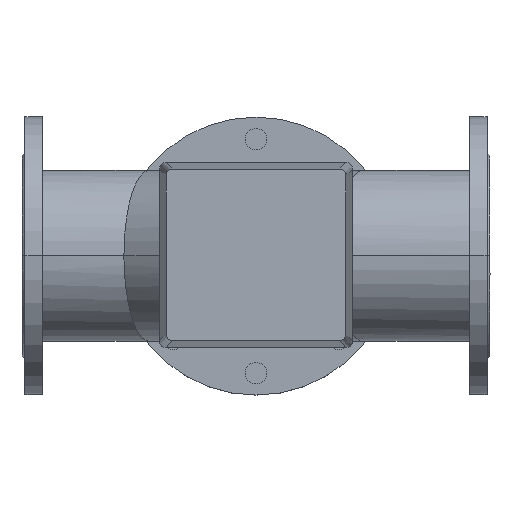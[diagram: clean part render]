
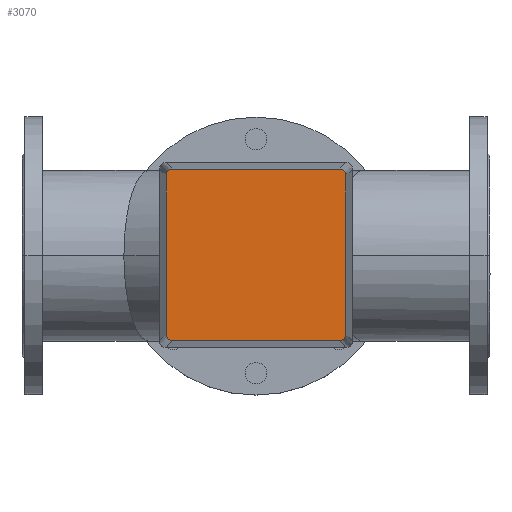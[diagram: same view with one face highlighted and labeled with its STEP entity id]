
A CAD part, top view. The second image highlights one B-rep face of the part: STEP entity #3070.
In plain terms, the highlighted planar face has unit normal (0, 0, 1).
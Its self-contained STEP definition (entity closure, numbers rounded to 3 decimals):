
#248=LINE('',#5295,#418);
#249=LINE('',#5299,#419);
#250=LINE('',#5303,#420);
#251=LINE('',#5306,#421);
#418=VECTOR('',#4198,304.8);
#419=VECTOR('',#4201,304.8);
#420=VECTOR('',#4204,304.8);
#421=VECTOR('',#4207,304.8);
#752=FACE_OUTER_BOUND('',#972,.T.);
#972=EDGE_LOOP('',(#2438,#2439,#2440,#2441,#2442,#2443,#2444,#2445));
#1198=CIRCLE('',#3418,6.);
#1199=CIRCLE('',#3419,6.);
#1200=CIRCLE('',#3420,6.);
#1201=CIRCLE('',#3421,6.);
#1448=VERTEX_POINT('',#5291);
#1449=VERTEX_POINT('',#5292);
#1450=VERTEX_POINT('',#5294);
#1451=VERTEX_POINT('',#5296);
#1452=VERTEX_POINT('',#5298);
#1453=VERTEX_POINT('',#5300);
#1454=VERTEX_POINT('',#5302);
#1455=VERTEX_POINT('',#5304);
#1796=EDGE_CURVE('',#1448,#1449,#1198,.T.);
#1797=EDGE_CURVE('',#1449,#1450,#248,.T.);
#1798=EDGE_CURVE('',#1450,#1451,#1199,.T.);
#1799=EDGE_CURVE('',#1451,#1452,#249,.T.);
#1800=EDGE_CURVE('',#1452,#1453,#1200,.T.);
#1801=EDGE_CURVE('',#1453,#1454,#250,.T.);
#1802=EDGE_CURVE('',#1454,#1455,#1201,.T.);
#1803=EDGE_CURVE('',#1455,#1448,#251,.T.);
#2438=ORIENTED_EDGE('',*,*,#1796,.T.);
#2439=ORIENTED_EDGE('',*,*,#1797,.T.);
#2440=ORIENTED_EDGE('',*,*,#1798,.T.);
#2441=ORIENTED_EDGE('',*,*,#1799,.T.);
#2442=ORIENTED_EDGE('',*,*,#1800,.T.);
#2443=ORIENTED_EDGE('',*,*,#1801,.T.);
#2444=ORIENTED_EDGE('',*,*,#1802,.T.);
#2445=ORIENTED_EDGE('',*,*,#1803,.T.);
#2790=PLANE('',#3417);
#3070=ADVANCED_FACE('',(#752),#2790,.T.);
#3417=AXIS2_PLACEMENT_3D('',#5290,#4194,#4195);
#3418=AXIS2_PLACEMENT_3D('',#5293,#4196,#4197);
#3419=AXIS2_PLACEMENT_3D('',#5297,#4199,#4200);
#3420=AXIS2_PLACEMENT_3D('',#5301,#4202,#4203);
#3421=AXIS2_PLACEMENT_3D('',#5305,#4205,#4206);
#4194=DIRECTION('center_axis',(0.,0.,1.));
#4195=DIRECTION('ref_axis',(-1.,0.,0.));
#4196=DIRECTION('center_axis',(0.,0.,1.));
#4197=DIRECTION('ref_axis',(1.,0.,0.));
#4198=DIRECTION('',(0.,-1.,0.));
#4199=DIRECTION('center_axis',(0.,0.,1.));
#4200=DIRECTION('ref_axis',(1.,0.,0.));
#4201=DIRECTION('',(1.,0.,0.));
#4202=DIRECTION('center_axis',(0.,0.,1.));
#4203=DIRECTION('ref_axis',(1.,0.,0.));
#4204=DIRECTION('',(0.,1.,0.));
#4205=DIRECTION('center_axis',(0.,0.,1.));
#4206=DIRECTION('ref_axis',(1.,0.,0.));
#4207=DIRECTION('',(-1.,0.,0.));
#5290=CARTESIAN_POINT('Origin',(0.,0.,
345.));
#5291=CARTESIAN_POINT('',(-82.,92.,345.));
#5292=CARTESIAN_POINT('',(-88.,86.,345.));
#5293=CARTESIAN_POINT('Origin',(-82.,86.,345.));
#5294=CARTESIAN_POINT('',(-88.,-86.,345.));
#5295=CARTESIAN_POINT('',(-88.,-86.,345.));
#5296=CARTESIAN_POINT('',(-82.,-92.,345.));
#5297=CARTESIAN_POINT('Origin',(-82.,-86.,345.));
#5298=CARTESIAN_POINT('',(82.,-92.,345.));
#5299=CARTESIAN_POINT('',(82.,-92.,345.));
#5300=CARTESIAN_POINT('',(88.,-86.,345.));
#5301=CARTESIAN_POINT('Origin',(82.,-86.,345.));
#5302=CARTESIAN_POINT('',(88.,86.,345.));
#5303=CARTESIAN_POINT('',(88.,86.,345.));
#5304=CARTESIAN_POINT('',(82.,92.,345.));
#5305=CARTESIAN_POINT('Origin',(82.,86.,345.));
#5306=CARTESIAN_POINT('',(-82.,92.,345.));
